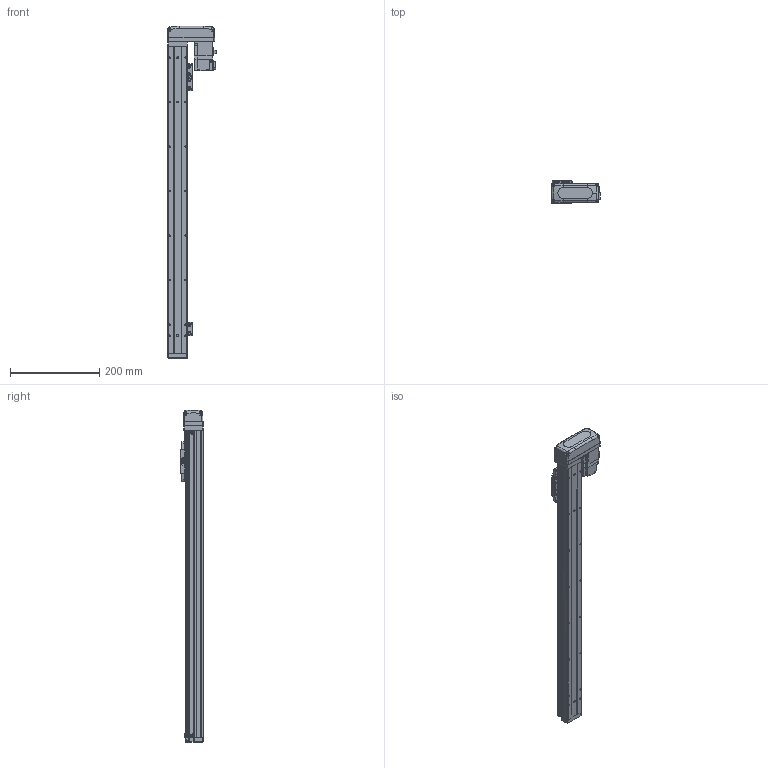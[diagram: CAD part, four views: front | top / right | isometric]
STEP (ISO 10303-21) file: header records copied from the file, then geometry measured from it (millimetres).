
FILE_DESCRIPTION (( 'STEP AP203' ), '1' );
FILE_NAME ('GTH4-550-BL-M05-C4.step', '2023-08-28T00:41:06', ( '微软用户' ), ( '微软中国' ), 'SwSTEP 2.0', 'SolidWorks 2020', '' );
FILE_SCHEMA (( 'CONFIG_CONTROL_DESIGN' ));
Length unit declared in the file: millimetre
Products named in the file (19): BTH40-001-50_BTH40-001-550; BTH50-024; HG-KR13; BTH40-003; GBT 70.1-M3℅6; GBT 70.3-M3℅6; BTH40-006; GBT96.1-2002 3×0.8; BTH40-027-1; BTH-M3X5X6; BTH40-022; BTH50-026; GBT70.1-2000 M3×16; GBT 70.1-M2.5×6; GTH4-550-BL-M05-C4; BTH50-028; BTH40-004; BTH50-023; BTH40-013
Assembly tree (47 placements, depth 2):
  GTH4-550-BL-M05-C4
    BTH40-001-50_BTH40-001-550
    BTH40-003
    BTH40-006
    BTH-M3X5X6  x8
    GBT70.1-2000 M3×16  x4
    BTH50-028  x2
    BTH50-023  x3
    BTH50-024  x3
    GBT 70.1-M3℅6  x6
    GBT96.1-2002 3×0.8  x6
    BTH40-022
    GBT 70.1-M2.5×6  x2
    BTH40-004
    BTH40-013
    HG-KR13
    GBT 70.3-M3℅6  x4
    BTH40-027-1
    BTH50-026
Bounding box: 108.8 x 52 x 746 mm (x, y, z)
Volume: 1351628.9 mm3; surface area: 236922.8 mm2
Topology: 49 solids, 49 shells, 1967 faces, 4631 edges, 2854 vertices
Faces by surface type: plane 1052, cylinder 499, cone 250, torus 128, bspline 34, sphere 4
Entity records: 39339 total; most frequent: CARTESIAN_POINT 7538, DIRECTION 6152, ORIENTED_EDGE 5908, EDGE_CURVE 2954, AXIS2_PLACEMENT_3D 2103, VECTOR 1946, LINE 1946, VERTEX_POINT 1841
